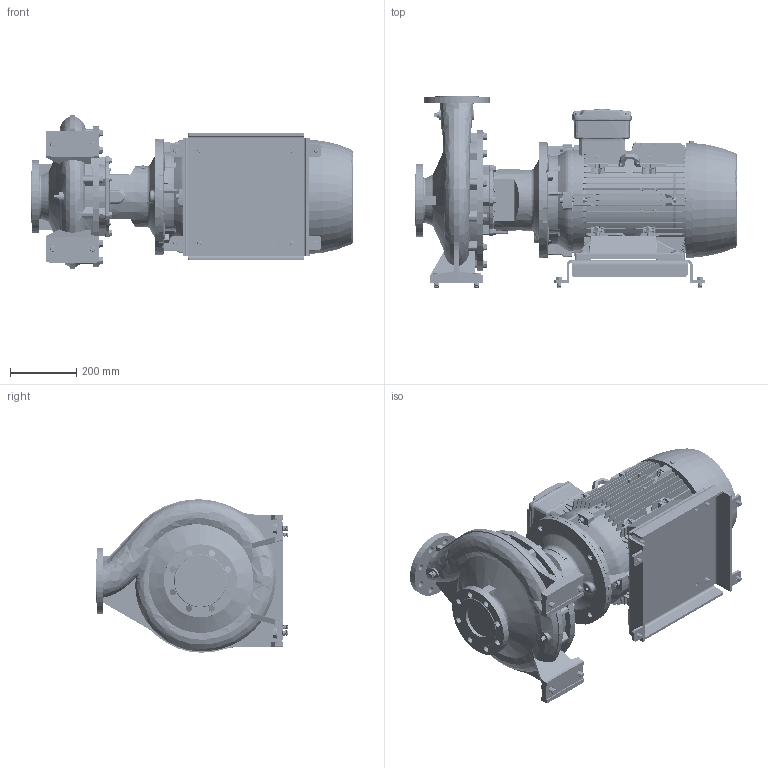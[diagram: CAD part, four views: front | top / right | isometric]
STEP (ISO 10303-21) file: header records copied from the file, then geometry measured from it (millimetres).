
FILE_DESCRIPTION (( 'STEP AP214' ), '1' );
FILE_NAME ('GSD4 80-315_18.5 & 22_(180ML)_W21.STEP', '2026-07-01T06:13:13', ( '' ), ( '' ), 'SwSTEP 2.0', 'SolidWorks 2024', '' );
FILE_SCHEMA (( 'AUTOMOTIVE_DESIGN' ));
Length unit declared in the file: millimetre
Products named in the file (12): Parametric Flat Washer_M12; CGS11-5263; Parametric Flat Washer_M16; Parametric bolt_SFT-A297B; Parametric bolt_SFT-A305B; 180M_L ALIE3_W21T_B35; Parametric bolt and washer_SFT-A297B; Parametric bolt and washer_SFT-A305B; GSD4 80-315_18.5 & 22_(180ML)_W21; Parametric bolt and washer_SFT-A353B; Parametric bolt_SFT-A353B; 80-315-180M_L_ﾃﾞﾌｫﾙﾄ
Assembly tree (21 placements, depth 3):
  GSD4 80-315_18.5 & 22_(180ML)_W21
    80-315-180M_L_ﾃﾞﾌｫﾙﾄ
    CGS11-5263
    Parametric bolt and washer_SFT-A353B  x4
      Parametric bolt_SFT-A353B
      Parametric Flat Washer_M16
    Parametric bolt and washer_SFT-A297B  x4
      Parametric bolt_SFT-A297B
      Parametric Flat Washer_M12
    Parametric bolt and washer_SFT-A305B  x4
      Parametric bolt_SFT-A305B
      Parametric Flat Washer_M12
    180M_L ALIE3_W21T_B35
Bounding box: 969.8 x 579.5 x 462.67 mm (x, y, z)
Volume: 72720461.4 mm3; surface area: 4145164.6 mm2
Topology: 59 solids, 59 shells, 6801 faces, 17636 edges, 11407 vertices
Faces by surface type: plane 3987, cylinder 1369, cone 678, bspline 464, torus 287, sphere 16
Entity records: 241155 total; most frequent: CARTESIAN_POINT 94774, ORIENTED_EDGE 32264, DIRECTION 27140, EDGE_CURVE 16132, VERTEX_POINT 10438, LINE 10024, VECTOR 10024, AXIS2_PLACEMENT_3D 8558
